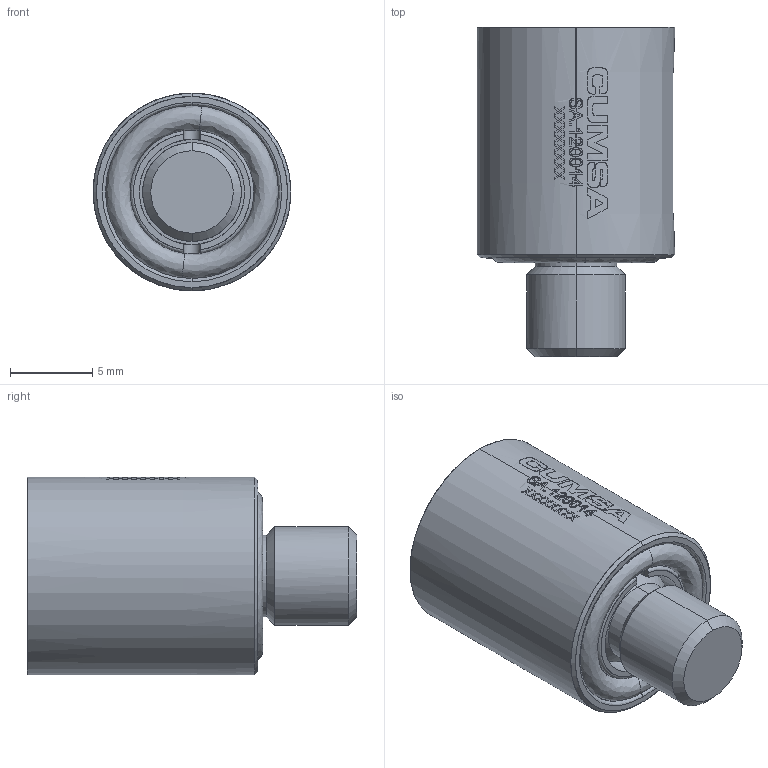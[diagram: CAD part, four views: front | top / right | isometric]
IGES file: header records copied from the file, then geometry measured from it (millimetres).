
Start section: START RECORD GO HERE.
Global section: file name: sa120014.igs; native system: DASSAULT SYSTEMES CATIA V5 R20 - www.3ds.com; preprocessor: CATIA Version 5 Release 20 ; author: Utente; organization: NB04-ASUS; date: 20201107.131909; units: millimetre
Bounding box: 12 x 20 x 12 mm (x, y, z)
Surface area: 1898.2 mm2 (no closed solid volume)
Topology: 0 solids, 0 shells, 497 faces, 2838 edges, 2836 vertices
Faces by surface type: bspline 277, plane 119, revolution 101
